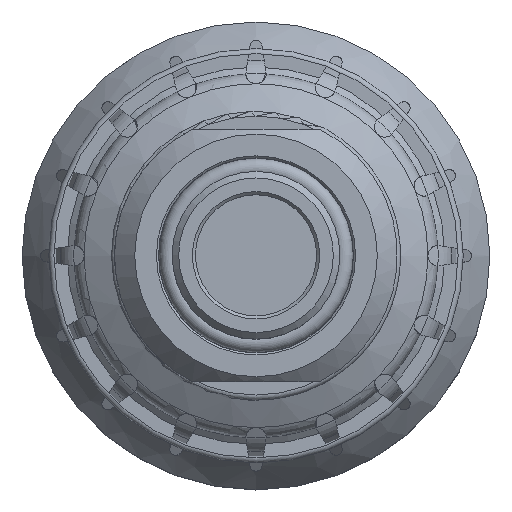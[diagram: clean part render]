
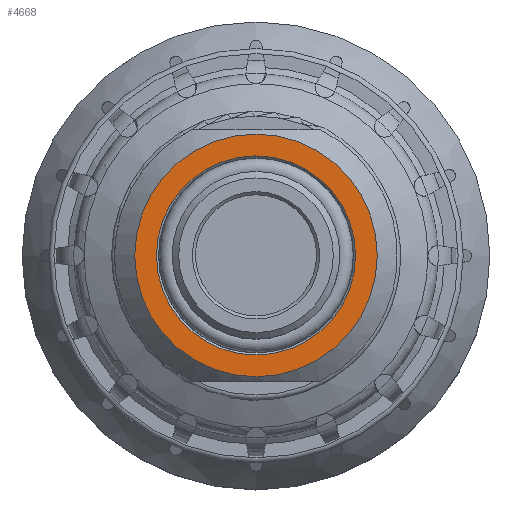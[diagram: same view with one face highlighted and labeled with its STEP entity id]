
A CAD part, top view. The second image highlights one B-rep face of the part: STEP entity #4668.
In plain terms, the highlighted planar face has unit normal (0, 0, 1).
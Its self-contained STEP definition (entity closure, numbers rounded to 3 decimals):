
#4668 = ADVANCED_FACE( '', ( #7514, #7515 ), #7516, .T. );
#7514 = FACE_BOUND( '', #9423, .T. );
#7515 = FACE_OUTER_BOUND( '', #9424, .T. );
#7516 = PLANE( '', #9425 );
#9423 = EDGE_LOOP( '', ( #14553 ) );
#9424 = EDGE_LOOP( '', ( #14554 ) );
#9425 = AXIS2_PLACEMENT_3D( '', #14555, #14556, #14557 );
#14553 = ORIENTED_EDGE( '', *, *, #22449, .T. );
#14554 = ORIENTED_EDGE( '', *, *, #22447, .F. );
#14555 = CARTESIAN_POINT( '', ( -9.85, 0., 3.011 ) );
#14556 = DIRECTION( '', ( 0., 0., 1. ) );
#14557 = DIRECTION( '', ( 1., 0., 0. ) );
#22447 = EDGE_CURVE( '', #25140, #25140, #25141, .T. );
#22449 = EDGE_CURVE( '', #25143, #25143, #25144, .T. );
#25140 = VERTEX_POINT( '', #31277 );
#25141 = CIRCLE( '', #31278, 12. );
#25143 = VERTEX_POINT( '', #31280 );
#25144 = CIRCLE( '', #31281, 9.85 );
#31277 = CARTESIAN_POINT( '', ( -12., 0., 3.011 ) );
#31278 = AXIS2_PLACEMENT_3D( '', #32567, #32568, #32569 );
#31280 = CARTESIAN_POINT( '', ( -9.85, 0., 3.011 ) );
#31281 = AXIS2_PLACEMENT_3D( '', #32573, #32574, #32575 );
#32567 = CARTESIAN_POINT( '', ( 0., 0., 3.011 ) );
#32568 = DIRECTION( '', ( 0., 0., -1. ) );
#32569 = DIRECTION( '', ( -1., 0., 0. ) );
#32573 = CARTESIAN_POINT( '', ( 0., 0., 3.011 ) );
#32574 = DIRECTION( '', ( 0., 0., -1. ) );
#32575 = DIRECTION( '', ( -1., 0., 0. ) );
